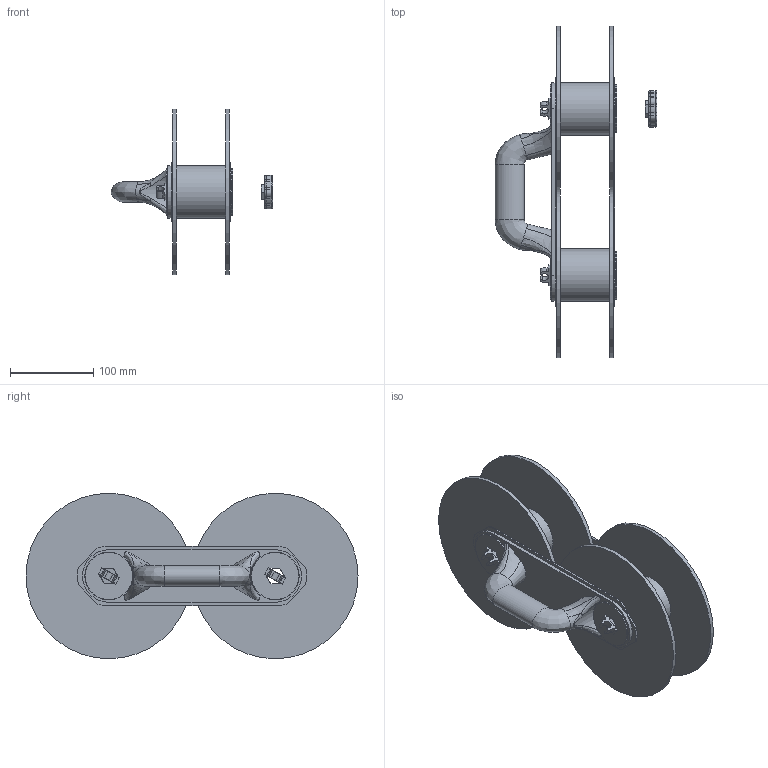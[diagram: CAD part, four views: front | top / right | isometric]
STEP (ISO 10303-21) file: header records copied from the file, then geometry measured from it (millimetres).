
FILE_DESCRIPTION(/* description */ (''),/* implementation_level */ '2;1');
FILE_NAME(/* name */ '_2 SPOOL CORD WRAP_GENERIC.stp',/* time_stamp */ '2023-04-27T12:52:02-06:00',/* author */ ('andre'),/* organization */ (''),/* preprocessor_version */ 'ST-DEVELOPER v19.2',/* originating_system */ 'Autodesk Inventor 2023',/* authorisation */ '');
FILE_SCHEMA (('AUTOMOTIVE_DESIGN { 1 0 10303 214 3 1 1 }'));
Length unit declared in the file: inch
Products named in the file (8): _2 SPOOL CORD WRAP_GENERIC; WRENCH; CORD SNAP; GENERIC BARREL NUT; GENERIC SPOOL; GENERIC BARREL SCREW; GENERIC HANDLE; GENERIC SIDE PL
Assembly tree (12 placements, depth 2):
  _2 SPOOL CORD WRAP_GENERIC
    WRENCH
    CORD SNAP  x2
    GENERIC BARREL NUT  x2
    GENERIC SPOOL  x2
    GENERIC BARREL SCREW  x2
    GENERIC HANDLE
    GENERIC SIDE PL  x2
Bounding box: 194.36 x 399 x 199 mm (x, y, z)
Volume: 976534.9 mm3; surface area: 446058.7 mm2
Topology: 12 solids, 12 shells, 503 faces, 1203 edges, 738 vertices
Faces by surface type: cylinder 205, plane 133, torus 106, bspline 55, sphere 4
Full cylindrical faces by diameter (mm): 30.1 x2, 34.1 x12, 34.5 x14, 38.5 x2, 53.5 x4, 54 x8, 57.5 x4, 63 x2, 199 x4
Entity records: 15923 total; most frequent: CARTESIAN_POINT 7955, DIRECTION 1628, ORIENTED_EDGE 1488, EDGE_CURVE 744, AXIS2_PLACEMENT_3D 677, VERTEX_POINT 456, CIRCLE 353, EDGE_LOOP 342
